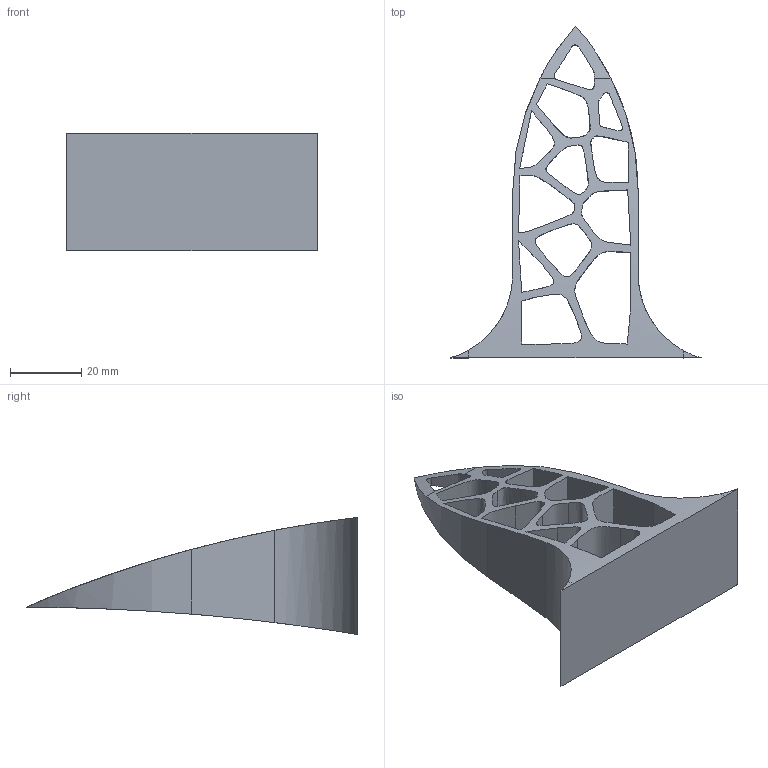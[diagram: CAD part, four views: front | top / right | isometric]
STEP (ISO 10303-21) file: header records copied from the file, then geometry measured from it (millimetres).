
FILE_DESCRIPTION(/* description */ (''),/* implementation_level */ '2;1');
FILE_NAME(/* name */ 'left_claw_bottom.step',/* time_stamp */ '2026-06-11T18:47:55-06:00',/* author */ (''),/* organization */ (''),/* preprocessor_version */ 'ST-DEVELOPER v20.1',/* originating_system */ 'Autodesk Translation Framework v15.8.0.0',/* authorisation */ '');
FILE_SCHEMA (('AUTOMOTIVE_DESIGN { 1 0 10303 214 3 1 1 }'));
Length unit declared in the file: millimetre
Products named in the file (1): left_claw_bottom
Bounding box: 70 x 92.9 x 32.78 mm (x, y, z)
Volume: 27423.7 mm3; surface area: 19147.5 mm2
Topology: 1 solids, 1 shells, 80 faces, 237 edges, 158 vertices
Faces by surface type: bspline 32, plane 29, cylinder 19
Entity records: 3759 total; most frequent: CARTESIAN_POINT 1789, ORIENTED_EDGE 474, DIRECTION 295, EDGE_CURVE 237, VERTEX_POINT 158, AXIS2_PLACEMENT_3D 104, EDGE_LOOP 103, B_SPLINE_CURVE_WITH_KNOTS 95
